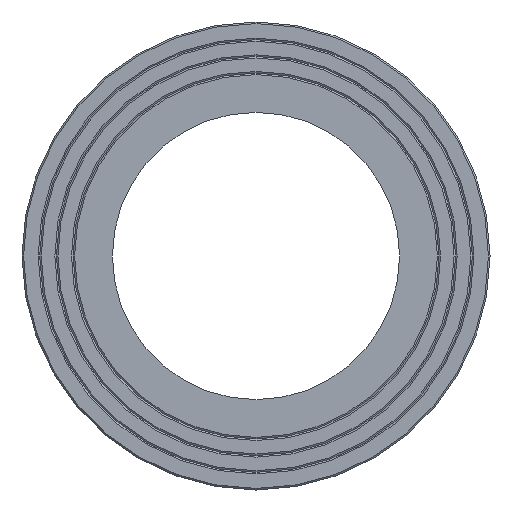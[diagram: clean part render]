
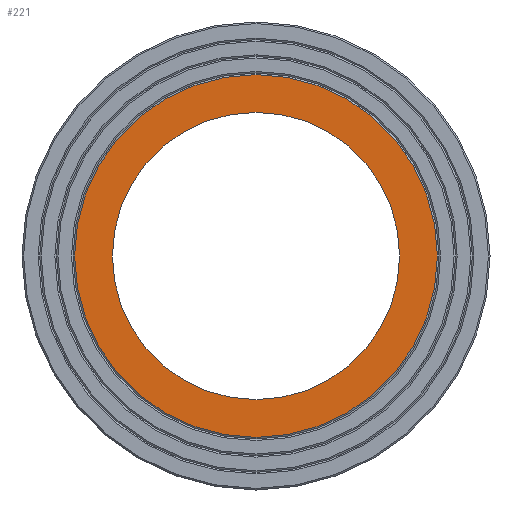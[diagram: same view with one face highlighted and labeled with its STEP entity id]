
A CAD part, left-side view. The second image highlights one B-rep face of the part: STEP entity #221.
In plain terms, the highlighted planar face has unit normal (-1, 0, 0).
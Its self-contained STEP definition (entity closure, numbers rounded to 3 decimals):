
#36=ORIENTED_EDGE('',*,*,#76,.F.);
#37=ORIENTED_EDGE('',*,*,#77,.T.);
#76=EDGE_CURVE('',#96,#96,#116,.T.);
#77=EDGE_CURVE('',#97,#97,#117,.T.);
#96=VERTEX_POINT('',#383);
#97=VERTEX_POINT('',#385);
#116=CIRCLE('',#257,137.8);
#117=CIRCLE('',#258,174.);
#136=EDGE_LOOP('',(#36));
#137=EDGE_LOOP('',(#37));
#176=FACE_BOUND('',#136,.T.);
#177=FACE_BOUND('',#137,.T.);
#215=PLANE('',#256);
#221=ADVANCED_FACE('',(#176,#177),#215,.F.);
#256=AXIS2_PLACEMENT_3D('',#381,#301,#302);
#257=AXIS2_PLACEMENT_3D('',#382,#303,#304);
#258=AXIS2_PLACEMENT_3D('',#384,#305,#306);
#301=DIRECTION('',(1.,0.,0.));
#302=DIRECTION('',(0.,0.,-1.));
#303=DIRECTION('',(-1.,0.,0.));
#304=DIRECTION('',(0.,0.,1.));
#305=DIRECTION('',(-1.,0.,0.));
#306=DIRECTION('',(0.,0.,1.));
#381=CARTESIAN_POINT('',(0.,0.,224.5));
#382=CARTESIAN_POINT('',(0.,0.,0.));
#383=CARTESIAN_POINT('',(0.,0.,137.8));
#384=CARTESIAN_POINT('',(0.,0.,0.));
#385=CARTESIAN_POINT('',(0.,0.,174.));
